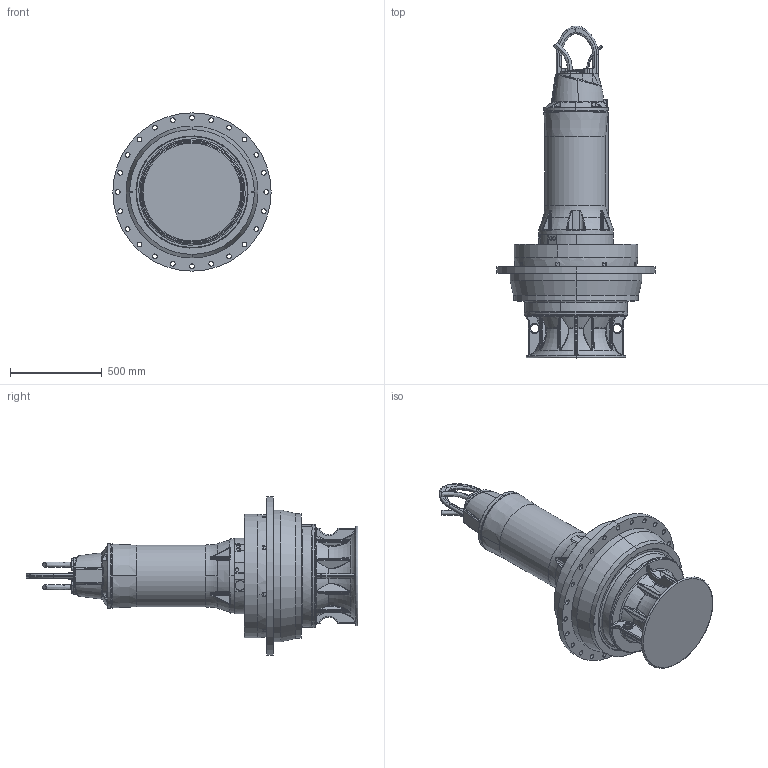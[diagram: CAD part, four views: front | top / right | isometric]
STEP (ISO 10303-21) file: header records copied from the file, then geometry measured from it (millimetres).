
FILE_DESCRIPTION (( 'STEP AP214' ), '1' );
FILE_NAME ('PE4_AFLX0700_DIN_B_NG2.STEP', '2017-04-11T05:10:39', ( '' ), ( '' ), 'SwSTEP 2.0', 'SolidWorks 2017', '' );
FILE_SCHEMA (( 'AUTOMOTIVE_DESIGN' ));
Length unit declared in the file: millimetre
Products named in the file (1): PE4_AFLX0700_DIN_B_NG2
Bounding box: 863 x 1808.7 x 863 mm (x, y, z)
Volume: 240361405.2 mm3; surface area: 4756150.1 mm2
Topology: 4 solids, 6 shells, 1451 faces, 3564 edges, 2107 vertices
Faces by surface type: bspline 547, cylinder 372, plane 240, torus 176, cone 100, sphere 16
Entity records: 148571 total; most frequent: CARTESIAN_POINT 102702, ORIENTED_EDGE 7044, DIRECTION 5260, EDGE_CURVE 3522, AXIS2_PLACEMENT_3D 2290, VERTEX_POINT 2107, EDGE_LOOP 1553, UNCERTAINTY_MEASURE_WITH_UNIT 1457
